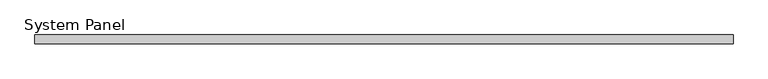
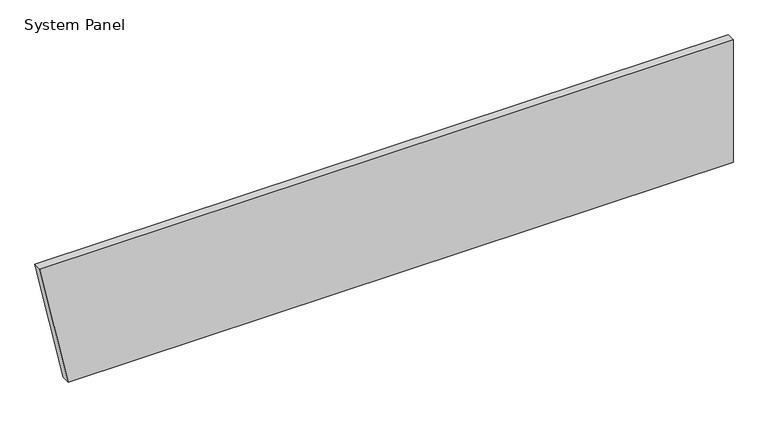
"""IFC4 building model written with IfcOpenShell, lengths in millimetres: plate geometry, System Panel : MetecnoPanel 75mm Horizontal - Plain Astro - PIR."""

from ifc_helpers import new_model, si_unit, frame, origin, place, context, project, spatial, polyline, outline, extrude, source, transform, mapped, element, save


def system_panel_98d8c84a(model_context):
    return source(origin(), model_context, "Body", "SweptSolid", [
        extrude(outline(polyline([(0.0, -2709.5661783), (0.0, 2948.698535), (1100.0, 2948.698535), (1100.0, -2948.698535), (0.0, -2709.5661783)])), frame((0.0, -75.0, 0.0), z_axis=(0.0, 1.0, 0.0), x_axis=(0.0, 0.0, 1.0)), (0.0, 0.0, 1.0), 75.0),
    ])


if __name__ == "__main__":
    model = new_model("IFC4")
    model_context = context("Model", 3, world=origin())
    ifc_project = project(units=[si_unit("LENGTHUNIT", "METRE", prefix="MILLI")], contexts=[model_context])
    site = spatial("IfcSite", under=ifc_project)
    building = spatial("IfcBuilding", under=site)
    placement = place(None, origin())
    system_panel_shape = system_panel_98d8c84a(model_context)
    element("IfcPlate", 1, ObjectType="System Panel : MetecnoPanel 75mm Horizontal - Plain Astro - PIR", at=placement, inside=building, context=model_context, shape_type="MappedRepresentation", body=[
        mapped(system_panel_shape, transform((0.0, 0.0, 0.0), x_axis=(1.0, 0.0, 0.0), y_axis=(0.0, 1.0, 0.0), z_axis=(0.0, 0.0, 1.0))),
    ])
    save(model, "model.ifc")
